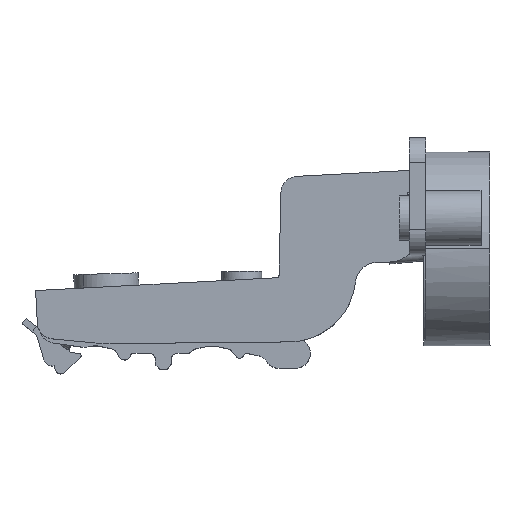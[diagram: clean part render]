
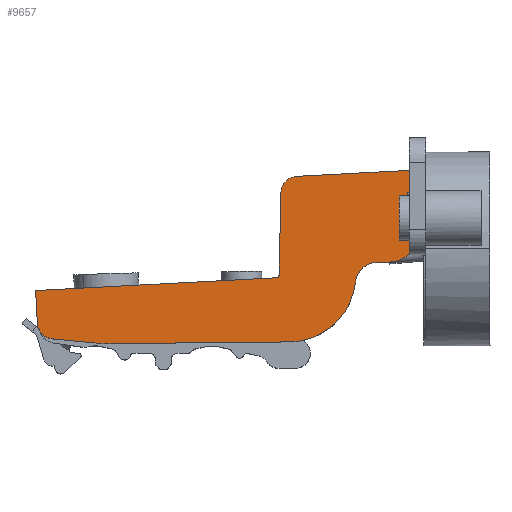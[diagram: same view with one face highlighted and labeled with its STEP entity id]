
A CAD part, top view. The second image highlights one B-rep face of the part: STEP entity #9657.
In plain terms, the highlighted planar face has unit normal (0, 0, 1).
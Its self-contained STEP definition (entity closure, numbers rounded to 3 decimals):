
#203 = DIRECTION ( 'NONE',  ( 0., 0., -1. ) ) ;
#231 = EDGE_CURVE ( 'NONE', #6971, #8871, #3143, .T. ) ;
#247 = AXIS2_PLACEMENT_3D ( 'NONE', #3482, #2511, #7844 ) ;
#436 = CARTESIAN_POINT ( 'NONE',  ( -61.815, -2.742, 8.5 ) ) ;
#475 = VERTEX_POINT ( 'NONE', #10169 ) ;
#493 = ORIENTED_EDGE ( 'NONE', *, *, #10477, .F. ) ;
#499 = CARTESIAN_POINT ( 'NONE',  ( 1.833, 6.888, 8.5 ) ) ;
#612 = DIRECTION ( 'NONE',  ( -1., -0.01, 0. ) ) ;
#654 = ORIENTED_EDGE ( 'NONE', *, *, #8728, .F. ) ;
#670 = VERTEX_POINT ( 'NONE', #8708 ) ;
#680 = DIRECTION ( 'NONE',  ( 1., 0.01, 0. ) ) ;
#834 = CIRCLE ( 'NONE', #11278, 4.5 ) ;
#840 = ORIENTED_EDGE ( 'NONE', *, *, #10034, .F. ) ;
#873 = ORIENTED_EDGE ( 'NONE', *, *, #231, .T. ) ;
#891 = CARTESIAN_POINT ( 'NONE',  ( 5.231, 3.937, 8.5 ) ) ;
#914 = CIRCLE ( 'NONE', #3072, 0.5 ) ;
#942 = EDGE_CURVE ( 'NONE', #10520, #11815, #5055, .T. ) ;
#991 = CARTESIAN_POINT ( 'NONE',  ( -4.409, -1.214, 8.5 ) ) ;
#1104 = DIRECTION ( 'NONE',  ( 0., 0., 1. ) ) ;
#1193 = DIRECTION ( 'NONE',  ( -0.024, -1., 0. ) ) ;
#1313 = CARTESIAN_POINT ( 'NONE',  ( -18.123, 0.045, 8.5 ) ) ;
#1416 = CARTESIAN_POINT ( 'NONE',  ( 5.223, 18.833, 8.5 ) ) ;
#1581 = PLANE ( 'NONE',  #247 ) ;
#1992 = VECTOR ( 'NONE', #5504, 1000. ) ;
#2034 = CARTESIAN_POINT ( 'NONE',  ( 1.876, 2.388, 8.5 ) ) ;
#2071 = LINE ( 'NONE', #7761, #4729 ) ;
#2240 = LINE ( 'NONE', #1313, #4516 ) ;
#2281 = VECTOR ( 'NONE', #2446, 1000. ) ;
#2440 = DIRECTION ( 'NONE',  ( 0., 0., -1. ) ) ;
#2446 = DIRECTION ( 'NONE',  ( -0.995, 0.095, 0. ) ) ;
#2511 = DIRECTION ( 'NONE',  ( 0., 0., 1. ) ) ;
#2849 = DIRECTION ( 'NONE',  ( 1., 0., 0. ) ) ;
#2907 = VECTOR ( 'NONE', #8635, 1000. ) ;
#2924 = DIRECTION ( 'NONE',  ( -1., -0.01, 0. ) ) ;
#2952 = VERTEX_POINT ( 'NONE', #3199 ) ;
#2972 = ORIENTED_EDGE ( 'NONE', *, *, #7834, .T. ) ;
#2998 = AXIS2_PLACEMENT_3D ( 'NONE', #8910, #2440, #10591 ) ;
#3066 = DIRECTION ( 'NONE',  ( 0.001, -1., 0. ) ) ;
#3072 = AXIS2_PLACEMENT_3D ( 'NONE', #10267, #10151, #2849 ) ;
#3138 = ORIENTED_EDGE ( 'NONE', *, *, #10652, .T. ) ;
#3143 = CIRCLE ( 'NONE', #6410, 3. ) ;
#3199 = CARTESIAN_POINT ( 'NONE',  ( -48.227, -12.26, 8.5 ) ) ;
#3277 = EDGE_CURVE ( 'NONE', #7798, #5515, #3289, .T. ) ;
#3289 = LINE ( 'NONE', #5213, #7634 ) ;
#3482 = CARTESIAN_POINT ( 'NONE',  ( 13.877, -2.021, 8.5 ) ) ;
#3877 = LINE ( 'NONE', #7325, #1992 ) ;
#3976 = CARTESIAN_POINT ( 'NONE',  ( 5.234, -2.026, 8.5 ) ) ;
#4067 = DIRECTION ( 'NONE',  ( -1., -0.01, 0. ) ) ;
#4119 = VERTEX_POINT ( 'NONE', #436 ) ;
#4168 = CARTESIAN_POINT ( 'NONE',  ( -61.494, -8.784, 8.5 ) ) ;
#4300 = EDGE_CURVE ( 'NONE', #4422, #670, #7036, .T. ) ;
#4422 = VERTEX_POINT ( 'NONE', #7640 ) ;
#4516 = VECTOR ( 'NONE', #1193, 1000. ) ;
#4729 = VECTOR ( 'NONE', #5760, 1000. ) ;
#4812 = DIRECTION ( 'NONE',  ( 1., 0., 0. ) ) ;
#4853 = CARTESIAN_POINT ( 'NONE',  ( -16.343, 0.045, 8.5 ) ) ;
#4870 = VERTEX_POINT ( 'NONE', #9041 ) ;
#5055 = LINE ( 'NONE', #3976, #10697 ) ;
#5213 = CARTESIAN_POINT ( 'NONE',  ( 12.935, 2.494, 8.5 ) ) ;
#5286 = CIRCLE ( 'NONE', #11457, 3. ) ;
#5346 = ORIENTED_EDGE ( 'NONE', *, *, #6325, .T. ) ;
#5504 = DIRECTION ( 'NONE',  ( -0.053, 0.999, 0. ) ) ;
#5515 = VERTEX_POINT ( 'NONE', #8943 ) ;
#5760 = DIRECTION ( 'NONE',  ( -0.999, -0.053, 0. ) ) ;
#5967 = CARTESIAN_POINT ( 'NONE',  ( -17.783, 14.833, 8.5 ) ) ;
#6205 = LINE ( 'NONE', #8993, #10919 ) ;
#6270 = CIRCLE ( 'NONE', #9544, 12. ) ;
#6325 = EDGE_CURVE ( 'NONE', #11227, #11628, #914, .T. ) ;
#6410 = AXIS2_PLACEMENT_3D ( 'NONE', #9393, #1104, #4812 ) ;
#6497 = DIRECTION ( 'NONE',  ( 0., 0., -1. ) ) ;
#6680 = ORIENTED_EDGE ( 'NONE', *, *, #7042, .T. ) ;
#6690 = ORIENTED_EDGE ( 'NONE', *, *, #942, .F. ) ;
#6794 = DIRECTION ( 'NONE',  ( 0., 0., -1. ) ) ;
#6806 = CARTESIAN_POINT ( 'NONE',  ( -18.596, -0.443, 8.5 ) ) ;
#6918 = VERTEX_POINT ( 'NONE', #4168 ) ;
#6971 = VERTEX_POINT ( 'NONE', #10861 ) ;
#7036 = LINE ( 'NONE', #10722, #2281 ) ;
#7042 = EDGE_CURVE ( 'NONE', #9024, #5515, #10007, .T. ) ;
#7081 = DIRECTION ( 'NONE',  ( 1., 0.01, 0. ) ) ;
#7135 = CARTESIAN_POINT ( 'NONE',  ( -17.783, 14.833, 8.5 ) ) ;
#7325 = CARTESIAN_POINT ( 'NONE',  ( -61.82, -2.663, 8.5 ) ) ;
#7327 = AXIS2_PLACEMENT_3D ( 'NONE', #9435, #6497, #2924 ) ;
#7634 = VECTOR ( 'NONE', #4067, 1000. ) ;
#7640 = CARTESIAN_POINT ( 'NONE',  ( -51.365, -12.125, 8.5 ) ) ;
#7683 = ORIENTED_EDGE ( 'NONE', *, *, #8526, .F. ) ;
#7761 = CARTESIAN_POINT ( 'NONE',  ( -21.854, -0.616, 8.5 ) ) ;
#7798 = VERTEX_POINT ( 'NONE', #2034 ) ;
#7834 = EDGE_CURVE ( 'NONE', #8871, #4870, #11401, .T. ) ;
#7844 = DIRECTION ( 'NONE',  ( 1., 0.01, 0. ) ) ;
#8133 = ORIENTED_EDGE ( 'NONE', *, *, #10543, .F. ) ;
#8205 = CARTESIAN_POINT ( 'NONE',  ( -0.462, 18.53, 8.5 ) ) ;
#8209 = CIRCLE ( 'NONE', #2998, 30. ) ;
#8324 = LINE ( 'NONE', #8205, #9918 ) ;
#8436 = DIRECTION ( 'NONE',  ( 1., 0.01, 0. ) ) ;
#8471 = ORIENTED_EDGE ( 'NONE', *, *, #3277, .F. ) ;
#8526 = EDGE_CURVE ( 'NONE', #6918, #4119, #3877, .T. ) ;
#8539 = CARTESIAN_POINT ( 'NONE',  ( -58.515, -8.429, 8.5 ) ) ;
#8635 = DIRECTION ( 'NONE',  ( -0.023, -1., 0. ) ) ;
#8707 = EDGE_CURVE ( 'NONE', #4870, #11227, #2240, .T. ) ;
#8708 = CARTESIAN_POINT ( 'NONE',  ( -58.8, -11.415, 8.5 ) ) ;
#8728 = EDGE_CURVE ( 'NONE', #670, #6918, #5286, .T. ) ;
#8871 = VERTEX_POINT ( 'NONE', #7135 ) ;
#8910 = CARTESIAN_POINT ( 'NONE',  ( -48.513, 17.739, 8.5 ) ) ;
#8943 = CARTESIAN_POINT ( 'NONE',  ( -0.47, 2.366, 8.5 ) ) ;
#8993 = CARTESIAN_POINT ( 'NONE',  ( -16.229, -11.955, 8.5 ) ) ;
#9024 = VERTEX_POINT ( 'NONE', #991 ) ;
#9041 = CARTESIAN_POINT ( 'NONE',  ( -18.123, 0.045, 8.5 ) ) ;
#9292 = EDGE_LOOP ( 'NONE', ( #6690, #3138, #873, #2972, #9352, #5346, #11912, #7683, #654, #10250, #840, #493, #9423, #6680, #8471, #8133 ) ) ;
#9352 = ORIENTED_EDGE ( 'NONE', *, *, #8707, .T. ) ;
#9393 = CARTESIAN_POINT ( 'NONE',  ( -14.783, 14.764, 8.5 ) ) ;
#9423 = ORIENTED_EDGE ( 'NONE', *, *, #11152, .F. ) ;
#9435 = CARTESIAN_POINT ( 'NONE',  ( -0.431, -1.634, 8.5 ) ) ;
#9544 = AXIS2_PLACEMENT_3D ( 'NONE', #4853, #6794, #8436 ) ;
#9657 = ADVANCED_FACE ( 'NONE', ( #10785 ), #1581, .T. ) ;
#9918 = VECTOR ( 'NONE', #9996, 1000. ) ;
#9996 = DIRECTION ( 'NONE',  ( -0.999, -0.053, 0. ) ) ;
#10007 = CIRCLE ( 'NONE', #7327, 4. ) ;
#10034 = EDGE_CURVE ( 'NONE', #2952, #4422, #8209, .T. ) ;
#10151 = DIRECTION ( 'NONE',  ( 0., 0., -1. ) ) ;
#10169 = CARTESIAN_POINT ( 'NONE',  ( -16.229, -11.955, 8.5 ) ) ;
#10250 = ORIENTED_EDGE ( 'NONE', *, *, #4300, .F. ) ;
#10267 = CARTESIAN_POINT ( 'NONE',  ( -18.623, 0.056, 8.5 ) ) ;
#10477 = EDGE_CURVE ( 'NONE', #475, #2952, #6205, .T. ) ;
#10520 = VERTEX_POINT ( 'NONE', #1416 ) ;
#10543 = EDGE_CURVE ( 'NONE', #11815, #7798, #834, .T. ) ;
#10591 = DIRECTION ( 'NONE',  ( 1., 0.01, 0. ) ) ;
#10652 = EDGE_CURVE ( 'NONE', #10520, #6971, #8324, .T. ) ;
#10653 = CARTESIAN_POINT ( 'NONE',  ( -18.123, 0.044, 8.5 ) ) ;
#10697 = VECTOR ( 'NONE', #3066, 1000. ) ;
#10722 = CARTESIAN_POINT ( 'NONE',  ( -51.365, -12.125, 8.5 ) ) ;
#10746 = DIRECTION ( 'NONE',  ( 0., 0., -1. ) ) ;
#10785 = FACE_OUTER_BOUND ( 'NONE', #9292, .T. ) ;
#10861 = CARTESIAN_POINT ( 'NONE',  ( -14.943, 17.76, 8.5 ) ) ;
#10919 = VECTOR ( 'NONE', #612, 1000. ) ;
#11126 = EDGE_CURVE ( 'NONE', #11628, #4119, #2071, .T. ) ;
#11152 = EDGE_CURVE ( 'NONE', #9024, #475, #6270, .T. ) ;
#11227 = VERTEX_POINT ( 'NONE', #10653 ) ;
#11278 = AXIS2_PLACEMENT_3D ( 'NONE', #499, #10746, #680 ) ;
#11401 = LINE ( 'NONE', #5967, #2907 ) ;
#11457 = AXIS2_PLACEMENT_3D ( 'NONE', #8539, #203, #7081 ) ;
#11628 = VERTEX_POINT ( 'NONE', #6806 ) ;
#11815 = VERTEX_POINT ( 'NONE', #891 ) ;
#11912 = ORIENTED_EDGE ( 'NONE', *, *, #11126, .T. ) ;
